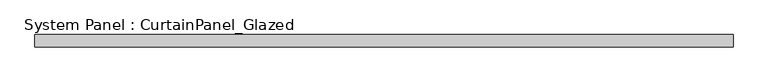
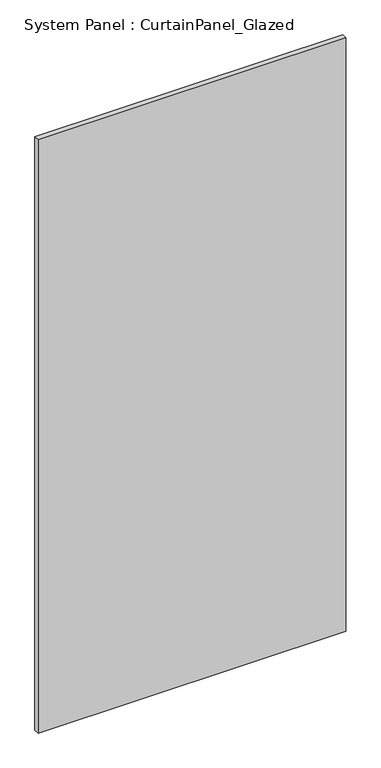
"""IFC4 building model written with IfcOpenShell, lengths in millimetres: plate geometry, System Panel : CurtainPanel_Glazed."""

from ifc_helpers import new_model, si_unit, origin, origin_with_axes, place, context, project, spatial, polyline, outline, extrude, source, transform, mapped, element, save


def system_panel_curtainpanel_glazed_47e39832(model_context):
    return source(origin(), model_context, "Body", "SweptSolid", [
        extrude(outline(polyline([(718.0555557, -12.5), (-718.0555557, -12.5), (-718.0555557, 12.5), (718.0555557, 12.5), (718.0555557, -12.5)])), origin_with_axes(), (0.0, 0.0, 1.0), 2925.0),
    ])


if __name__ == "__main__":
    model = new_model("IFC4")
    model_context = context("Model", 3, world=origin())
    ifc_project = project(units=[si_unit("LENGTHUNIT", "METRE", prefix="MILLI")], contexts=[model_context])
    site = spatial("IfcSite", under=ifc_project)
    building = spatial("IfcBuilding", under=site)
    placement = place(None, origin())
    system_panel_curtainpanel_glazed_shape = system_panel_curtainpanel_glazed_47e39832(model_context)
    element("IfcPlate", 1, ObjectType="System Panel : CurtainPanel_Glazed", at=placement, inside=building, context=model_context, shape_type="MappedRepresentation", body=[
        mapped(system_panel_curtainpanel_glazed_shape, transform((0.0, 0.0, 0.0), x_axis=(1.0, 0.0, 0.0), y_axis=(0.0, 1.0, 0.0), z_axis=(0.0, 0.0, 1.0))),
    ])
    save(model, "model.ifc")
